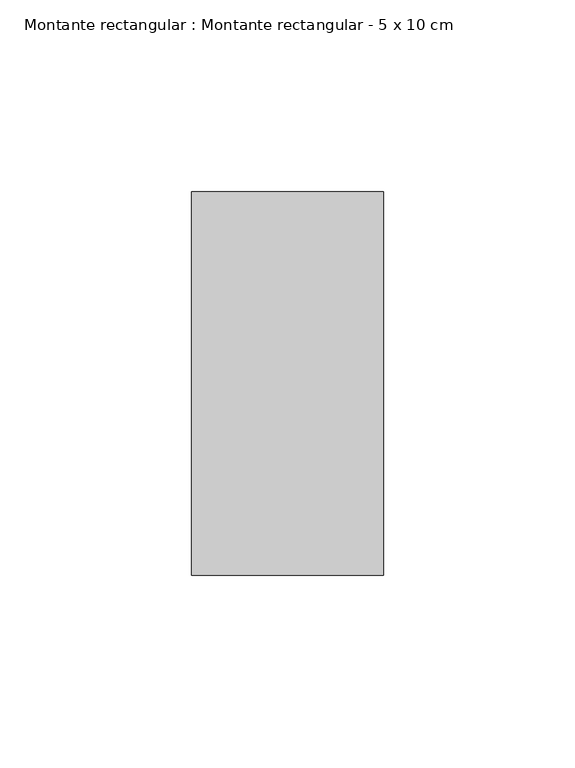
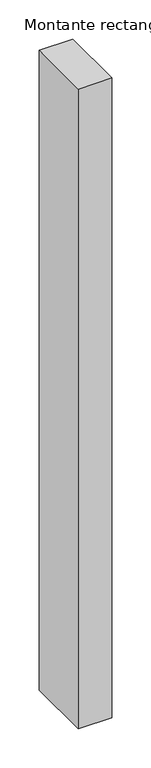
"""IFC4 building model written with IfcOpenShell, lengths in millimetres: member geometry, Montante rectangular : Montante rectangular - 5 x 10 cm."""

import ifcopenshell
import ifcopenshell.guid

model = None  # the IFC model being written
_history = None  # IfcOwnerHistory: only IFC2X3 demands one
_inside = {}  # id of a spatial element -> (the spatial element, [elements in it])
_under = {}  # id of a project, library or spatial element -> (it, [spatial elements below it])
_declared = {}  # id of a project -> (the project, [libraries it declares])
_typed = {}  # id of a type object -> (the type object, [elements of that type])
_made_of = {}  # id of a material, layer set ... -> (it, [elements and type objects made of it])


def new_model(schema):
    """Start an empty IFC model of exactly this schema.

    Asked for "IFC4X3", IfcOpenShell would pick the latest addendum, in which some entities
    have other attributes; the version numbers below select the first issue.
    IFC2X3 requires an IfcOwnerHistory on every rooted entity: one is made here for all.
    """
    global model, _history
    if schema == "IFC4X3":
        model = ifcopenshell.file(schema_version=(4, 3, 0, 0))
    else:
        model = ifcopenshell.file(schema=schema)
    _inside.clear()
    _under.clear()
    _declared.clear()
    _typed.clear()
    _made_of.clear()
    _history = None
    if model.schema == "IFC2X3":
        org = make("IfcOrganization", Name="unknown")
        user = make(
            "IfcPersonAndOrganization",
            ThePerson=make("IfcPerson", FamilyName="unknown"),
            TheOrganization=org,
        )
        app = make(
            "IfcApplication",
            ApplicationDeveloper=org,
            Version="unknown",
            ApplicationFullName="unknown",
            ApplicationIdentifier="unknown",
        )
        _history = make(
            "IfcOwnerHistory",
            OwningUser=user,
            OwningApplication=app,
            ChangeAction="ADDED",
            CreationDate=0,
        )
    return model


def make(cls, **values):
    """One entity of the class cls with the attributes given. An attribute that is None is left unset."""
    return model.create_entity(
        cls, **{name: value for name, value in values.items() if value is not None}
    )


def rooted(cls, **values):
    """An entity with a GlobalId (a new one), such as an element, a storey or a relation."""
    return make(cls, GlobalId=ifcopenshell.guid.new(), OwnerHistory=_history, **values)


def si_unit(unit_type, name, prefix=None):
    """IfcSIUnit, for example si_unit("LENGTHUNIT", "METRE", prefix="MILLI")."""
    return make("IfcSIUnit", UnitType=unit_type, Prefix=prefix, Name=name)


def assignment(units):
    """IfcUnitAssignment: the units of a project."""
    return None if units is None else make("IfcUnitAssignment", Units=units)


def point(xyz):
    """IfcCartesianPoint."""
    return None if xyz is None else make("IfcCartesianPoint", Coordinates=xyz)


def direction(xyz):
    """IfcDirection."""
    return None if xyz is None else make("IfcDirection", DirectionRatios=xyz)


def frame(location, z_axis=None, x_axis=None):
    """IfcAxis2Placement3D, a coordinate frame: its origin and axes. An axis left out is left unset."""
    return make(
        "IfcAxis2Placement3D",
        Location=point(location),
        Axis=direction(z_axis),
        RefDirection=direction(x_axis),
    )


def origin():
    """The frame at (0, 0, 0) with its axes left unset."""
    return frame((0.0, 0.0, 0.0))


def place(relative_to, where):
    """IfcLocalPlacement: puts the frame where relative to a parent placement (None: the world)."""
    return make(
        "IfcLocalPlacement", PlacementRelTo=relative_to, RelativePlacement=where
    )


def context(
    kind, dimensions, precision=None, world=None, true_north=None, identifier=None
):
    """IfcGeometricRepresentationContext, for example the 3D "Model" context."""
    return make(
        "IfcGeometricRepresentationContext",
        ContextIdentifier=identifier,
        ContextType=kind,
        CoordinateSpaceDimension=dimensions,
        Precision=precision,
        WorldCoordinateSystem=world,
        TrueNorth=true_north,
    )


def project(units=None, contexts=None):
    """IfcProject with its units and contexts."""
    return rooted(
        "IfcProject",
        Name="project",
        RepresentationContexts=contexts,
        UnitsInContext=assignment(units),
    )


def spatial(cls, under=None, at=None, **own):
    """A site, building, storey or space (cls), placed at a placement, below another one or the project."""
    s = rooted(cls, ObjectPlacement=at, **own)
    if under is not None:
        _under.setdefault(under.id(), (under, []))[1].append(s)
    return s


def polyline(points):
    """IfcPolyline through the points."""
    return make("IfcPolyline", Points=[point(p) for p in points])


def outline(outer, holes=None, kind="AREA"):
    """IfcArbitraryClosedProfileDef: a profile drawn as a closed curve; with holes, ...WithVoids."""
    if holes is None:
        return make("IfcArbitraryClosedProfileDef", ProfileType=kind, OuterCurve=outer)
    return make(
        "IfcArbitraryProfileDefWithVoids",
        ProfileType=kind,
        OuterCurve=outer,
        InnerCurves=holes,
    )


def extrude(swept, where, along, depth):
    """IfcExtrudedAreaSolid: the profile swept, set in the frame where, extruded along a direction by depth."""
    return make(
        "IfcExtrudedAreaSolid",
        SweptArea=swept,
        Position=where,
        ExtrudedDirection=direction(along),
        Depth=depth,
    )


def shape(context_of_items, identifier, shape_type, items):
    """IfcShapeRepresentation: the items that make up one representation, for example the "Body"."""
    return make(
        "IfcShapeRepresentation",
        ContextOfItems=context_of_items,
        RepresentationIdentifier=identifier,
        RepresentationType=shape_type,
        Items=items,
    )


def source(mapping_origin, context_of_items, identifier, shape_type, items):
    """IfcRepresentationMap: a shape defined once, which mapped items show again and again."""
    return make(
        "IfcRepresentationMap",
        MappingOrigin=mapping_origin,
        MappedRepresentation=shape(context_of_items, identifier, shape_type, items),
    )


def transform(
    local_origin,
    x_axis=None,
    y_axis=None,
    z_axis=None,
    scale=None,
    scale2=None,
    scale3=None,
    uniform=True,
):
    """IfcCartesianTransformationOperator3D, or its non-uniform kind. x_axis, y_axis, z_axis: its Axis1, 2, 3."""
    if uniform:
        return make(
            "IfcCartesianTransformationOperator3D",
            Axis1=direction(x_axis),
            Axis2=direction(y_axis),
            LocalOrigin=point(local_origin),
            Scale=scale,
            Axis3=direction(z_axis),
        )
    return make(
        "IfcCartesianTransformationOperator3DnonUniform",
        Axis1=direction(x_axis),
        Axis2=direction(y_axis),
        LocalOrigin=point(local_origin),
        Scale=scale,
        Axis3=direction(z_axis),
        Scale2=scale2,
        Scale3=scale3,
    )


def mapped(mapping_source, mapping_target):
    """IfcMappedItem: shows the shape of a source again, moved by a transform."""
    return make(
        "IfcMappedItem", MappingSource=mapping_source, MappingTarget=mapping_target
    )


def made_of(thing, what):
    """Note that an element or type object is made of a material, layer set ...; save() writes the relation."""
    if what is not None:
        _made_of.setdefault(what.id(), (what, []))[1].append(thing)
    return thing


def element(
    cls,
    number,
    at=None,
    inside=None,
    cuts=None,
    type_object=None,
    material=None,
    context=None,
    identifier="Body",
    shape_type=None,
    held_by="IfcProductDefinitionShape",
    body=None,
    shapes=None,
    **own,
):
    """One element of the class cls, such as IfcWall. Its Tag is "e" and its number.

    at: its placement. inside: the storey or other place that contains it. cuts: it is an
    opening in that element (IfcRelVoidsElement). A single representation is given by context,
    identifier, shape_type and body (its items); several are given by shapes. held_by: the class
    of the entity that holds the representations. save() writes the other relations.
    """
    e = rooted(cls, Tag="e%d" % number, ObjectPlacement=at, **own)
    if body is not None:
        shapes = [shape(context, identifier, shape_type, body)]
    if shapes is not None:
        e.Representation = make(held_by, Representations=shapes)
    if inside is not None:
        _inside.setdefault(inside.id(), (inside, []))[1].append(e)
    if cuts is not None:
        rooted(
            "IfcRelVoidsElement", RelatingBuildingElement=cuts, RelatedOpeningElement=e
        )
    if type_object is not None:
        _typed.setdefault(type_object.id(), (type_object, []))[1].append(e)
    return made_of(e, material)


def aggregate(whole, parts):
    """IfcRelAggregates: a whole, such as a stair, and the parts it consists of."""
    return rooted("IfcRelAggregates", RelatingObject=whole, RelatedObjects=parts)


def save(model, path):
    """Write the relations noted so far, then the file.

    IfcRelAggregates (storeys below a building ...), IfcRelContainedInSpatialStructure (elements
    in a storey), IfcRelDefinesByType, IfcRelAssociatesMaterial and IfcRelDeclares: one each for
    every whole, place, type object, material and project.
    """
    for whole, parts in _under.values():
        aggregate(whole, parts)
    for where, things in _inside.values():
        rooted(
            "IfcRelContainedInSpatialStructure",
            RelatedElements=things,
            RelatingStructure=where,
        )
    for kind, things in _typed.values():
        rooted("IfcRelDefinesByType", RelatedObjects=things, RelatingType=kind)
    for what, things in _made_of.values():
        rooted("IfcRelAssociatesMaterial", RelatedObjects=things, RelatingMaterial=what)
    for by, libraries in _declared.values():
        rooted("IfcRelDeclares", RelatingContext=by, RelatedDefinitions=libraries)
    model.write(path)


def montante_rectangular_montante_rectangular_5_x_10_cm_bca74f28(model_context):
    return source(origin(), model_context, "Body", "SweptSolid", [
        extrude(outline(polyline([(25.0, 50.0), (25.0, -50.0), (-25.0, -50.0), (-25.0, 50.0), (25.0, 50.0)])), frame((0.0, 0.0, -1000.0), z_axis=(0.0, 0.0, 1.0), x_axis=(1.0, 0.0, 0.0)), (0.0, 0.0, 1.0), 1000.0),
    ])


if __name__ == "__main__":
    model = new_model("IFC4")
    model_context = context("Model", 3, world=origin())
    ifc_project = project(units=[si_unit("LENGTHUNIT", "METRE", prefix="MILLI")], contexts=[model_context])
    site = spatial("IfcSite", under=ifc_project)
    building = spatial("IfcBuilding", under=site)
    placement = place(None, origin())
    montante_rectangular_montante_rectangular_5_x_10_cm_shape = montante_rectangular_montante_rectangular_5_x_10_cm_bca74f28(model_context)
    element("IfcMember", 1, ObjectType="Montante rectangular : Montante rectangular - 5 x 10 cm", at=placement, inside=building, context=model_context, shape_type="MappedRepresentation", body=[
        mapped(montante_rectangular_montante_rectangular_5_x_10_cm_shape, transform((0.0, 0.0, 0.0), x_axis=(1.0, 0.0, 0.0), y_axis=(0.0, 1.0, 0.0), z_axis=(0.0, 0.0, 1.0))),
    ])
    save(model, "model.ifc")
